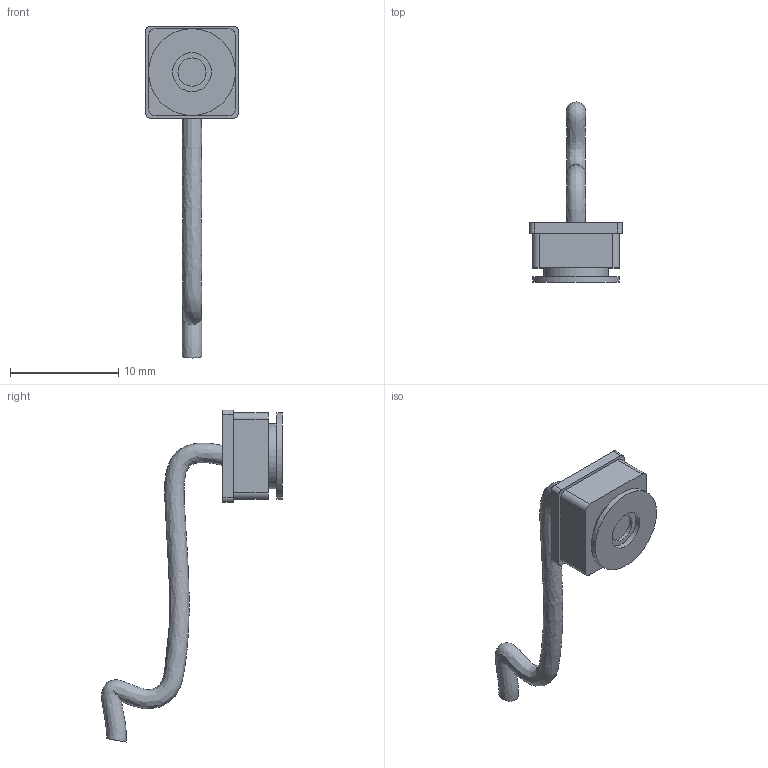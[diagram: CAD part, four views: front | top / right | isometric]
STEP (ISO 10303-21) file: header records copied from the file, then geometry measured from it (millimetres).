
FILE_DESCRIPTION(('Open CASCADE Model'),'2;1');
FILE_NAME('Open CASCADE Shape Model','2026-11-01T16:33:54',('Author'),( 'Open CASCADE'),'Open CASCADE STEP processor 8.0','build123d', 'Unknown');
FILE_SCHEMA(('AUTOMOTIVE_DESIGN { 1 0 10303 214 1 1 1 1 }'));
Length unit declared in the file: millimetre
Products named in the file (1): SOLID
Bounding box: 8.5 x 16.66 x 30.61 mm (x, y, z)
Volume: 405.8 mm3; surface area: 559.6 mm2
Topology: 1 solids, 1 shells, 30 faces, 66 edges, 44 vertices
Faces by surface type: plane 17, cylinder 12, bspline 1
Full cylindrical faces by diameter (mm): 2.6 x1, 3.6 x1, 6 x1, 8 x1
Entity records: 2928 total; most frequent: CARTESIAN_POINT 1560, DIRECTION 260, LINE 136, VECTOR 136, ORIENTED_EDGE 132, PCURVE 132, DEFINITIONAL_REPRESENTATION 132, EDGE_CURVE 66
